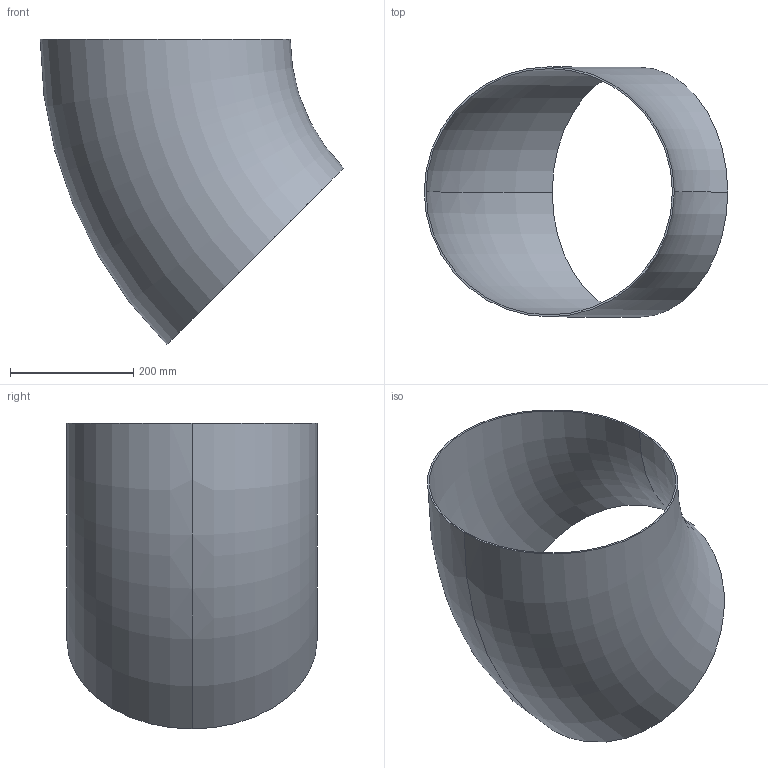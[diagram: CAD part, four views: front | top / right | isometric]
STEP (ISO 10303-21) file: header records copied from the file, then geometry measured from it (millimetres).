
FILE_DESCRIPTION (( 'STEP AP203' ), '1' );
FILE_NAME ('3D_R1650_406.4x3_17352020.STEP', '2024-08-03T09:26:13', ( '' ), ( '' ), 'SwSTEP 2.0', 'SolidWorks 2024', '' );
FILE_SCHEMA (( 'CONFIG_CONTROL_DESIGN' ));
Length unit declared in the file: millimetre
Products named in the file (1): 3D_R1650_406.4x3_17352020
Bounding box: 493.33 x 406.4 x 497.24 mm (x, y, z)
Volume: 1493024.4 mm3; surface area: 1002953.5 mm2
Topology: 1 solids, 1 shells, 6 faces, 12 edges, 8 vertices
Faces by surface type: torus 4, plane 2
Entity records: 249 total; most frequent: DIRECTION 38, CARTESIAN_POINT 27, ORIENTED_EDGE 24, AXIS2_PLACEMENT_3D 19, EDGE_CURVE 12, CIRCLE 12, VERTEX_POINT 8, PERSON_AND_ORGANIZATION 8
